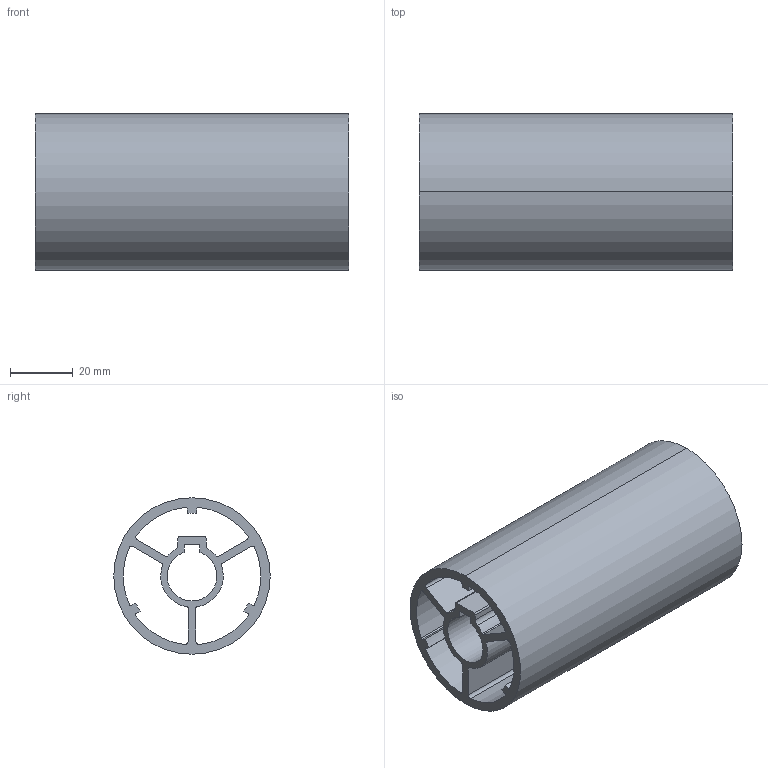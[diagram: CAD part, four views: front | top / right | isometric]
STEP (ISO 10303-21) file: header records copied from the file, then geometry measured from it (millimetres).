
FILE_DESCRIPTION (( 'STEP AP214' ), '1' );
FILE_NAME ('084.103.001.STEP', '2020-07-23T07:53:27', ( '' ), ( '' ), 'SwSTEP 2.0', 'SolidWorks 2018', '' );
FILE_SCHEMA (( 'AUTOMOTIVE_DESIGN' ));
Length unit declared in the file: millimetre
Products named in the file (1): 084.103.001
Bounding box: 100 x 50 x 50 mm (x, y, z)
Volume: 68391.2 mm3; surface area: 49623.3 mm2
Topology: 1 solids, 1 shells, 63 faces, 183 edges, 122 vertices
Faces by surface type: cylinder 43, plane 20
Entity records: 2173 total; most frequent: DIRECTION 397, CARTESIAN_POINT 369, ORIENTED_EDGE 366, EDGE_CURVE 183, AXIS2_PLACEMENT_3D 150, VERTEX_POINT 122, VECTOR 97, LINE 97
